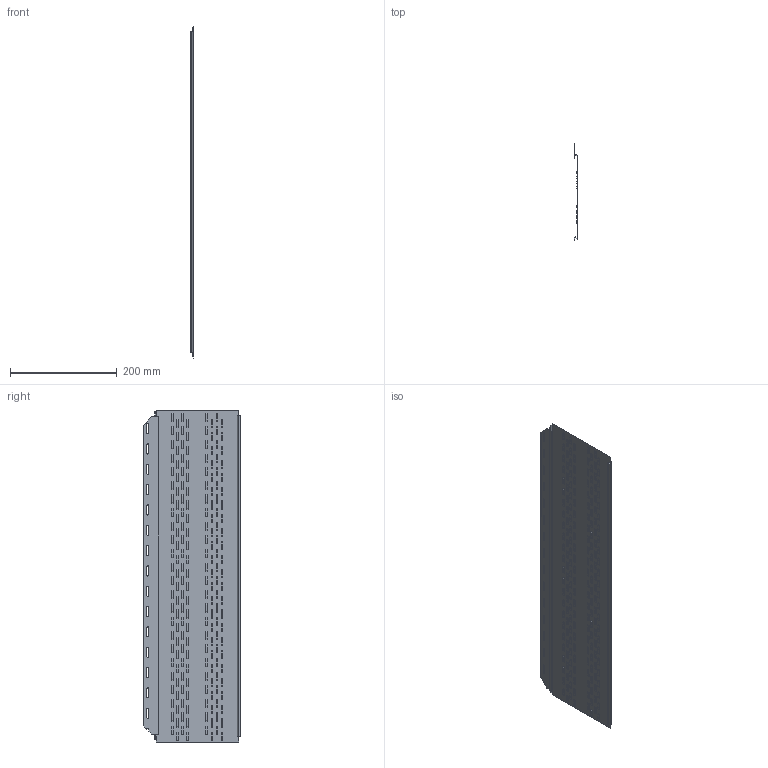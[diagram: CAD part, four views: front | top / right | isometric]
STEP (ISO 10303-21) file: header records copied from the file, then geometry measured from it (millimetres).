
FILE_DESCRIPTION(/* description */ (''),/* implementation_level */ '2;1');
FILE_NAME(/* name */ 'HARRYWOOD PLUS VENT.stp',/* time_stamp */ '2023-05-31T09:06:55-04:00',/* author */ ('Utilisateur'),/* organization */ (''),/* preprocessor_version */ 'ST-DEVELOPER v19.2',/* originating_system */ 'Autodesk Inventor 2024',/* authorisation */ '');
FILE_SCHEMA (('AUTOMOTIVE_DESIGN { 1 0 10303 214 3 1 1 }'));
Products named in the file (1): HARRYWOOD PLUS VENT pour 3D
Bounding box: 7.37 x 182.46 x 622.3 mm (x, y, z)
Volume: 66753.4 mm3; surface area: 264706 mm2
Topology: 1 solids, 1 shells, 2603 faces, 8183 edges, 4814 vertices
Faces by surface type: plane 1794, cylinder 809
Entity records: 90620 total; most frequent: ORIENTED_EDGE 16366, CARTESIAN_POINT 15601, DIRECTION 15397, EDGE_CURVE 8183, LINE 6177, VECTOR 6177, VERTEX_POINT 4814, AXIS2_PLACEMENT_3D 4610
